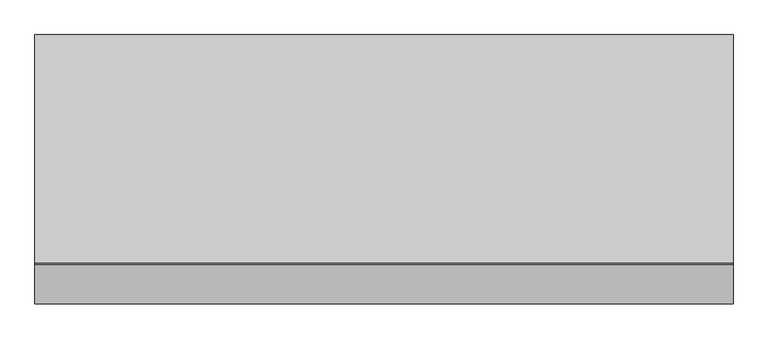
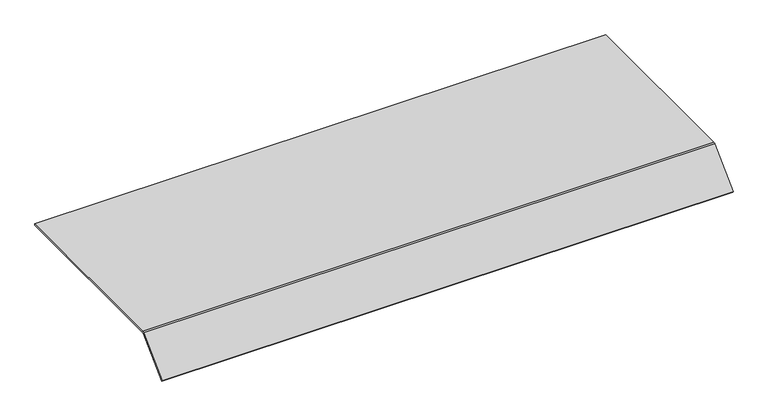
"""IFC4 building model written with IfcOpenShell, lengths in millimetres: proxy geometry, Electrical_Installation_Hager_Blank-Cover-800mm-Single-Sided-Height-70mm : Electrical_Installation_Hager_Blank-Cover-800mm-Single-Sided-Height-70mm."""

from ifc_helpers import new_model, si_unit, point, frame, frame_2d, origin, place, context, project, spatial, polyline, circle_curve, trimmed, segment, composite_curve, outline, extrude, source, transform, mapped, element, save


def electrical_fixtures_f985ebad(model_context):
    return source(origin(), model_context, "Body", "SweptSolid", [
        extrude(outline(composite_curve([segment(polyline([(200.0, 40.5), (200.0, 37.5), (-199.8229541, 37.5)]), True, "CONTINUOUS"), segment(trimmed(circle_curve(frame_2d((-199.8229541, 36.0725733)), 1.4274267), [point((-199.8229541, 37.5))], [point((-200.8322972, 37.0819164))], True, "CARTESIAN"), True, "CONTINUOUS"), segment(polyline([(-200.8322972, 37.0819164), (-268.6627596, -30.7485461), (-270.78408, -28.6272257), (-202.8206472, 39.336207)]), True, "CONTINUOUS"), segment(trimmed(circle_curve(frame_2d((-200.0110025, 36.5265623)), 3.9734377), [point((-202.8206472, 39.336207))], [point((-200.0110025, 40.5))], False, "CARTESIAN"), True, "CONTINUOUS"), segment(polyline([(-200.0110025, 40.5), (200.0, 40.5)]), True, "CONTINUOUS")], self_intersect=False)), frame((0.0, 0.0, 0.0), z_axis=(1.0, 0.0, 0.0), x_axis=(0.0, 1.0, 0.0)), (0.0, 0.0, 1.0), 1220.0),
    ])


if __name__ == "__main__":
    model = new_model("IFC4")
    model_context = context("Model", 3, world=origin())
    ifc_project = project(units=[si_unit("LENGTHUNIT", "METRE", prefix="MILLI")], contexts=[model_context])
    site = spatial("IfcSite", under=ifc_project)
    building = spatial("IfcBuilding", under=site)
    placement = place(None, origin())
    electrical_fixtures_shape = electrical_fixtures_f985ebad(model_context)
    element("IfcBuildingElementProxy", 1, Name="Electrical_Installation_Hager_Blank-Cover-800mm-Single-Sided-Height-70mm : Electrical_Installation_Hager_Blank-Cover-800mm-Single-Sided-Height-70mm", ObjectType="Electrical_Installation_Hager_Blank-Cover-800mm-Single-Sided-Height-70mm : Electrical_Installation_Hager_Blank-Cover-800mm-Single-Sided-Height-70mm", at=placement, inside=building, context=model_context, shape_type="MappedRepresentation", body=[
        mapped(electrical_fixtures_shape, transform((0.0, 0.0, 0.0), x_axis=(1.0, 0.0, 0.0), y_axis=(0.0, 1.0, 0.0), z_axis=(0.0, 0.0, 1.0))),
    ])
    save(model, "model.ifc")
